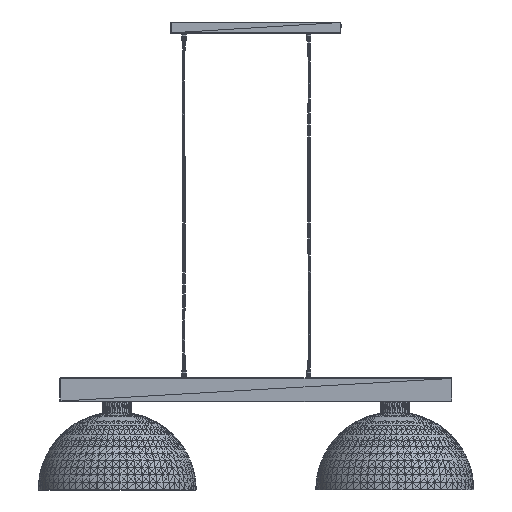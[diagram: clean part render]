
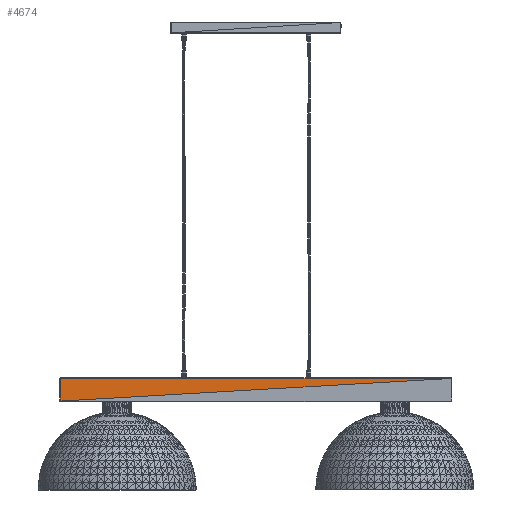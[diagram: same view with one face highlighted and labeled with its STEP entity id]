
A CAD part, front view. The second image highlights one B-rep face of the part: STEP entity #4674.
In plain terms, the highlighted planar face has unit normal (0, -1, 0).
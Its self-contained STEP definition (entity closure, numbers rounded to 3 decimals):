
#3620 = VERTEX_POINT('',#3621);
#3621 = CARTESIAN_POINT('',(47.229,142.633,
    188.329));
#3635 = PLANE('',#3636);
#3636 = AXIS2_PLACEMENT_3D('',#3637,#3638,#3639);
#3637 = CARTESIAN_POINT('',(472.882,142.633,
    200.677));
#3638 = DIRECTION('',(-0.,-1.,-0.));
#3639 = DIRECTION('',(0.,0.,-1.));
#4620 = EDGE_CURVE('',#4621,#3620,#4623,.T.);
#4621 = VERTEX_POINT('',#4622);
#4622 = CARTESIAN_POINT('',(875.23,142.633,
    236.329));
#4623 = SURFACE_CURVE('',#4624,(#4628,#4635),.PCURVE_S1.);
#4624 = LINE('',#4625,#4626);
#4625 = CARTESIAN_POINT('',(875.23,142.633,
    236.329));
#4626 = VECTOR('',#4627,1.);
#4627 = DIRECTION('',(-0.998,0.,-0.058));
#4628 = PCURVE('',#3635,#4629);
#4629 = DEFINITIONAL_REPRESENTATION('',(#4630),#4634);
#4630 = LINE('',#4631,#4632);
#4631 = CARTESIAN_POINT('',(-35.652,402.348));
#4632 = VECTOR('',#4633,1.);
#4633 = DIRECTION('',(0.058,-0.998));
#4634 = ( GEOMETRIC_REPRESENTATION_CONTEXT(2) 
PARAMETRIC_REPRESENTATION_CONTEXT() REPRESENTATION_CONTEXT('2D SPACE',''
  ) );
#4635 = PCURVE('',#4636,#4641);
#4636 = PLANE('',#4637);
#4637 = AXIS2_PLACEMENT_3D('',#4638,#4639,#4640);
#4638 = CARTESIAN_POINT('',(449.577,142.633,
    223.982));
#4639 = DIRECTION('',(-0.,-1.,-0.));
#4640 = DIRECTION('',(0.,0.,-1.));
#4641 = DEFINITIONAL_REPRESENTATION('',(#4642),#4646);
#4642 = LINE('',#4643,#4644);
#4643 = CARTESIAN_POINT('',(-12.348,425.653));
#4644 = VECTOR('',#4645,1.);
#4645 = DIRECTION('',(0.058,-0.998));
#4646 = ( GEOMETRIC_REPRESENTATION_CONTEXT(2) 
PARAMETRIC_REPRESENTATION_CONTEXT() REPRESENTATION_CONTEXT('2D SPACE',''
  ) );
#4674 = ADVANCED_FACE('',(#4675),#4636,.T.);
#4675 = FACE_BOUND('',#4676,.T.);
#4676 = EDGE_LOOP('',(#4677,#4678,#4706));
#4677 = ORIENTED_EDGE('',*,*,#4620,.F.);
#4678 = ORIENTED_EDGE('',*,*,#4679,.T.);
#4679 = EDGE_CURVE('',#4621,#4680,#4682,.T.);
#4680 = VERTEX_POINT('',#4681);
#4681 = CARTESIAN_POINT('',(47.229,142.633,
    236.329));
#4682 = SURFACE_CURVE('',#4683,(#4687,#4694),.PCURVE_S1.);
#4683 = LINE('',#4684,#4685);
#4684 = CARTESIAN_POINT('',(875.23,142.633,
    236.329));
#4685 = VECTOR('',#4686,1.);
#4686 = DIRECTION('',(-1.,0.,0.));
#4687 = PCURVE('',#4636,#4688);
#4688 = DEFINITIONAL_REPRESENTATION('',(#4689),#4693);
#4689 = LINE('',#4690,#4691);
#4690 = CARTESIAN_POINT('',(-12.348,425.653));
#4691 = VECTOR('',#4692,1.);
#4692 = DIRECTION('',(0.,-1.));
#4693 = ( GEOMETRIC_REPRESENTATION_CONTEXT(2) 
PARAMETRIC_REPRESENTATION_CONTEXT() REPRESENTATION_CONTEXT('2D SPACE',''
  ) );
#4694 = PCURVE('',#4695,#4700);
#4695 = PLANE('',#4696);
#4696 = AXIS2_PLACEMENT_3D('',#4697,#4698,#4699);
#4697 = CARTESIAN_POINT('',(461.359,142.667,
    236.454));
#4698 = DIRECTION('',(0.,-0.966,0.259
    ));
#4699 = DIRECTION('',(0.,-0.259,-0.966
    ));
#4700 = DEFINITIONAL_REPRESENTATION('',(#4701),#4705);
#4701 = LINE('',#4702,#4703);
#4702 = CARTESIAN_POINT('',(0.129,413.871));
#4703 = VECTOR('',#4704,1.);
#4704 = DIRECTION('',(0.,-1.));
#4705 = ( GEOMETRIC_REPRESENTATION_CONTEXT(2) 
PARAMETRIC_REPRESENTATION_CONTEXT() REPRESENTATION_CONTEXT('2D SPACE',''
  ) );
#4706 = ORIENTED_EDGE('',*,*,#4707,.T.);
#4707 = EDGE_CURVE('',#4680,#3620,#4708,.T.);
#4708 = SURFACE_CURVE('',#4709,(#4713,#4720),.PCURVE_S1.);
#4709 = LINE('',#4710,#4711);
#4710 = CARTESIAN_POINT('',(47.229,142.633,
    236.329));
#4711 = VECTOR('',#4712,1.);
#4712 = DIRECTION('',(0.,0.,-1.));
#4713 = PCURVE('',#4636,#4714);
#4714 = DEFINITIONAL_REPRESENTATION('',(#4715),#4719);
#4715 = LINE('',#4716,#4717);
#4716 = CARTESIAN_POINT('',(-12.348,-402.348));
#4717 = VECTOR('',#4718,1.);
#4718 = DIRECTION('',(1.,0.));
#4719 = ( GEOMETRIC_REPRESENTATION_CONTEXT(2) 
PARAMETRIC_REPRESENTATION_CONTEXT() REPRESENTATION_CONTEXT('2D SPACE',''
  ) );
#4720 = PCURVE('',#4721,#4726);
#4721 = PLANE('',#4722);
#4722 = AXIS2_PLACEMENT_3D('',#4723,#4724,#4725);
#4723 = CARTESIAN_POINT('',(47.104,142.667,
    212.201));
#4724 = DIRECTION('',(-0.259,-0.966,0.
    ));
#4725 = DIRECTION('',(-0.966,0.259,0.)
  );
#4726 = DEFINITIONAL_REPRESENTATION('',(#4727),#4731);
#4727 = LINE('',#4728,#4729);
#4728 = CARTESIAN_POINT('',(-0.13,-24.129));
#4729 = VECTOR('',#4730,1.);
#4730 = DIRECTION('',(0.,1.));
#4731 = ( GEOMETRIC_REPRESENTATION_CONTEXT(2) 
PARAMETRIC_REPRESENTATION_CONTEXT() REPRESENTATION_CONTEXT('2D SPACE',''
  ) );
